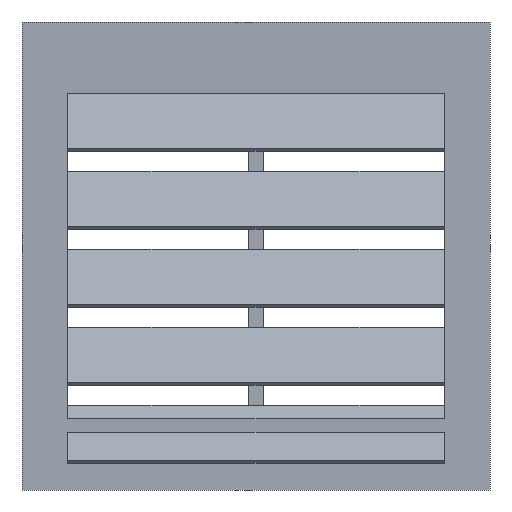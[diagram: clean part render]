
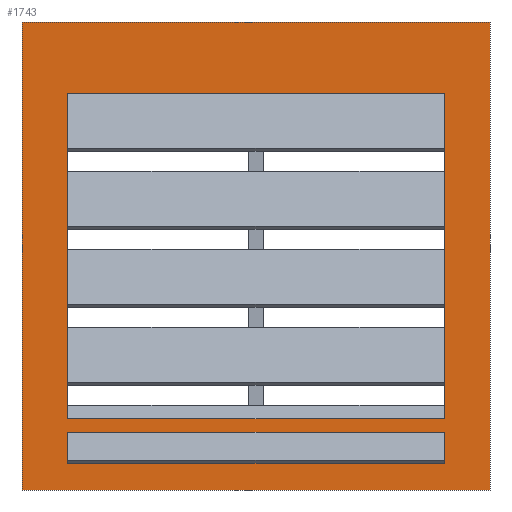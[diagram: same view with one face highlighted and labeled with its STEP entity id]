
A CAD part, front view. The second image highlights one B-rep face of the part: STEP entity #1743.
In plain terms, the highlighted planar face has unit normal (0, -1, 0).
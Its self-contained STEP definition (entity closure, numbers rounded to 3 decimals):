
#25=FACE_BOUND('',#223,.T.);
#26=FACE_BOUND('',#224,.T.);
#131=FACE_OUTER_BOUND('',#222,.T.);
#222=EDGE_LOOP('',(#1550,#1551,#1552,#1553));
#223=EDGE_LOOP('',(#1554,#1555,#1556,#1557));
#224=EDGE_LOOP('',(#1558,#1559,#1560,#1561,#1562,#1563,#1564,#1565,#1566,
#1567,#1568,#1569,#1570,#1571,#1572,#1573,#1574,#1575,#1576,#1577));
#244=LINE('',#2329,#463);
#248=LINE('',#2337,#467);
#251=LINE('',#2343,#470);
#263=LINE('',#2370,#482);
#284=LINE('',#2415,#503);
#287=LINE('',#2421,#506);
#310=LINE('',#2466,#529);
#313=LINE('',#2472,#532);
#336=LINE('',#2517,#555);
#339=LINE('',#2523,#558);
#365=LINE('',#2579,#584);
#369=LINE('',#2586,#588);
#370=LINE('',#2587,#589);
#371=LINE('',#2588,#590);
#372=LINE('',#2590,#591);
#398=LINE('',#2637,#617);
#399=LINE('',#2638,#618);
#400=LINE('',#2639,#619);
#401=LINE('',#2640,#620);
#409=LINE('',#2657,#628);
#427=LINE('',#2707,#646);
#437=LINE('',#2722,#656);
#438=LINE('',#2730,#657);
#443=LINE('',#2744,#662);
#452=LINE('',#2789,#671);
#453=LINE('',#2791,#672);
#454=LINE('',#2793,#673);
#455=LINE('',#2794,#674);
#463=VECTOR('',#1880,10.);
#467=VECTOR('',#1886,10.);
#470=VECTOR('',#1891,10.);
#482=VECTOR('',#1911,10.);
#503=VECTOR('',#1946,10.);
#506=VECTOR('',#1951,10.);
#529=VECTOR('',#1986,10.);
#532=VECTOR('',#1991,10.);
#555=VECTOR('',#2026,10.);
#558=VECTOR('',#2031,10.);
#584=VECTOR('',#2079,10.);
#588=VECTOR('',#2087,10.);
#589=VECTOR('',#2088,10.);
#590=VECTOR('',#2089,10.);
#591=VECTOR('',#2090,10.);
#617=VECTOR('',#2128,10.);
#618=VECTOR('',#2129,10.);
#619=VECTOR('',#2130,10.);
#620=VECTOR('',#2131,10.);
#628=VECTOR('',#2147,10.);
#646=VECTOR('',#2193,10.);
#656=VECTOR('',#2209,10.);
#657=VECTOR('',#2220,10.);
#662=VECTOR('',#2239,10.);
#671=VECTOR('',#2300,10.);
#672=VECTOR('',#2301,10.);
#673=VECTOR('',#2302,10.);
#674=VECTOR('',#2303,10.);
#683=VERTEX_POINT('',#2327);
#684=VERTEX_POINT('',#2328);
#687=VERTEX_POINT('',#2336);
#689=VERTEX_POINT('',#2342);
#710=VERTEX_POINT('',#2396);
#713=VERTEX_POINT('',#2402);
#717=VERTEX_POINT('',#2414);
#719=VERTEX_POINT('',#2420);
#728=VERTEX_POINT('',#2447);
#731=VERTEX_POINT('',#2453);
#735=VERTEX_POINT('',#2465);
#737=VERTEX_POINT('',#2471);
#746=VERTEX_POINT('',#2498);
#749=VERTEX_POINT('',#2504);
#753=VERTEX_POINT('',#2516);
#755=VERTEX_POINT('',#2522);
#773=VERTEX_POINT('',#2576);
#774=VERTEX_POINT('',#2578);
#776=VERTEX_POINT('',#2589);
#791=VERTEX_POINT('',#2635);
#796=VERTEX_POINT('',#2656);
#814=VERTEX_POINT('',#2706);
#816=VERTEX_POINT('',#2720);
#818=VERTEX_POINT('',#2729);
#829=VERTEX_POINT('',#2787);
#830=VERTEX_POINT('',#2788);
#831=VERTEX_POINT('',#2790);
#832=VERTEX_POINT('',#2792);
#837=EDGE_CURVE('',#683,#684,#244,.T.);
#841=EDGE_CURVE('',#687,#683,#248,.T.);
#844=EDGE_CURVE('',#684,#689,#251,.T.);
#858=EDGE_CURVE('',#689,#687,#263,.T.);
#880=EDGE_CURVE('',#713,#717,#284,.T.);
#883=EDGE_CURVE('',#719,#710,#287,.T.);
#906=EDGE_CURVE('',#731,#735,#310,.T.);
#909=EDGE_CURVE('',#737,#728,#313,.T.);
#932=EDGE_CURVE('',#749,#753,#336,.T.);
#935=EDGE_CURVE('',#755,#746,#339,.T.);
#965=EDGE_CURVE('',#774,#773,#365,.T.);
#969=EDGE_CURVE('',#710,#774,#369,.T.);
#970=EDGE_CURVE('',#728,#719,#370,.T.);
#971=EDGE_CURVE('',#746,#737,#371,.T.);
#972=EDGE_CURVE('',#776,#755,#372,.T.);
#998=EDGE_CURVE('',#753,#791,#398,.T.);
#999=EDGE_CURVE('',#735,#749,#399,.T.);
#1000=EDGE_CURVE('',#717,#731,#400,.T.);
#1001=EDGE_CURVE('',#773,#713,#401,.T.);
#1009=EDGE_CURVE('',#796,#776,#409,.T.);
#1035=EDGE_CURVE('',#791,#814,#427,.T.);
#1045=EDGE_CURVE('',#814,#816,#437,.T.);
#1049=EDGE_CURVE('',#818,#796,#438,.T.);
#1057=EDGE_CURVE('',#816,#818,#443,.T.);
#1076=EDGE_CURVE('',#829,#830,#452,.T.);
#1077=EDGE_CURVE('',#830,#831,#453,.T.);
#1078=EDGE_CURVE('',#831,#832,#454,.T.);
#1079=EDGE_CURVE('',#832,#829,#455,.T.);
#1550=ORIENTED_EDGE('',*,*,#1076,.T.);
#1551=ORIENTED_EDGE('',*,*,#1077,.T.);
#1552=ORIENTED_EDGE('',*,*,#1078,.T.);
#1553=ORIENTED_EDGE('',*,*,#1079,.T.);
#1554=ORIENTED_EDGE('',*,*,#858,.T.);
#1555=ORIENTED_EDGE('',*,*,#841,.T.);
#1556=ORIENTED_EDGE('',*,*,#837,.T.);
#1557=ORIENTED_EDGE('',*,*,#844,.T.);
#1558=ORIENTED_EDGE('',*,*,#1049,.T.);
#1559=ORIENTED_EDGE('',*,*,#1009,.T.);
#1560=ORIENTED_EDGE('',*,*,#972,.T.);
#1561=ORIENTED_EDGE('',*,*,#935,.T.);
#1562=ORIENTED_EDGE('',*,*,#971,.T.);
#1563=ORIENTED_EDGE('',*,*,#909,.T.);
#1564=ORIENTED_EDGE('',*,*,#970,.T.);
#1565=ORIENTED_EDGE('',*,*,#883,.T.);
#1566=ORIENTED_EDGE('',*,*,#969,.T.);
#1567=ORIENTED_EDGE('',*,*,#965,.T.);
#1568=ORIENTED_EDGE('',*,*,#1001,.T.);
#1569=ORIENTED_EDGE('',*,*,#880,.T.);
#1570=ORIENTED_EDGE('',*,*,#1000,.T.);
#1571=ORIENTED_EDGE('',*,*,#906,.T.);
#1572=ORIENTED_EDGE('',*,*,#999,.T.);
#1573=ORIENTED_EDGE('',*,*,#932,.T.);
#1574=ORIENTED_EDGE('',*,*,#998,.T.);
#1575=ORIENTED_EDGE('',*,*,#1035,.T.);
#1576=ORIENTED_EDGE('',*,*,#1045,.T.);
#1577=ORIENTED_EDGE('',*,*,#1057,.T.);
#1662=PLANE('',#1864);
#1743=ADVANCED_FACE('',(#131,#25,#26),#1662,.T.);
#1864=AXIS2_PLACEMENT_3D('',#2786,#2298,#2299);
#1880=DIRECTION('',(0.,0.,-1.));
#1886=DIRECTION('',(1.,0.,0.));
#1891=DIRECTION('',(-1.,0.,0.));
#1911=DIRECTION('',(0.,0.,1.));
#1946=DIRECTION('',(0.,0.,1.));
#1951=DIRECTION('',(0.,0.,-1.));
#1986=DIRECTION('',(0.,0.,1.));
#1991=DIRECTION('',(0.,0.,-1.));
#2026=DIRECTION('',(0.,0.,1.));
#2031=DIRECTION('',(0.,0.,-1.));
#2079=DIRECTION('',(-1.,0.,0.));
#2087=DIRECTION('',(0.,0.,-1.));
#2088=DIRECTION('',(0.,0.,-1.));
#2089=DIRECTION('',(0.,0.,-1.));
#2090=DIRECTION('',(0.,0.,-1.));
#2128=DIRECTION('',(0.,0.,1.));
#2129=DIRECTION('',(0.,0.,1.));
#2130=DIRECTION('',(0.,0.,1.));
#2131=DIRECTION('',(0.,0.,1.));
#2147=DIRECTION('',(0.,0.,-1.));
#2193=DIRECTION('',(0.,0.,1.));
#2209=DIRECTION('',(0.,0.,1.));
#2220=DIRECTION('',(0.,0.,-1.));
#2239=DIRECTION('',(1.,0.,0.));
#2298=DIRECTION('center_axis',(0.,-1.,0.));
#2299=DIRECTION('ref_axis',(0.,0.,-1.));
#2300=DIRECTION('',(1.,0.,0.));
#2301=DIRECTION('',(0.,0.,1.));
#2302=DIRECTION('',(-1.,0.,0.));
#2303=DIRECTION('',(0.,0.,-1.));
#2327=CARTESIAN_POINT('',(96.5,-14.,-90.5));
#2328=CARTESIAN_POINT('',(96.5,-14.,-93.328));
#2329=CARTESIAN_POINT('',(96.5,-14.,-38.25));
#2336=CARTESIAN_POINT('',(-96.5,-14.,-90.5));
#2337=CARTESIAN_POINT('',(0.,-14.,-90.5));
#2342=CARTESIAN_POINT('',(-96.5,-14.,-93.328));
#2343=CARTESIAN_POINT('',(0.,-14.,-93.328));
#2370=CARTESIAN_POINT('',(-96.5,-14.,-52.392));
#2396=CARTESIAN_POINT('',(96.5,-14.,-53.328));
#2402=CARTESIAN_POINT('',(-96.5,-14.,-53.328));
#2414=CARTESIAN_POINT('',(-96.5,-14.,-50.5));
#2415=CARTESIAN_POINT('',(-96.5,-14.,-41.75));
#2420=CARTESIAN_POINT('',(96.5,-14.,-50.5));
#2421=CARTESIAN_POINT('',(96.5,-14.,41.75));
#2447=CARTESIAN_POINT('',(96.5,-14.,-13.328));
#2453=CARTESIAN_POINT('',(-96.5,-14.,-13.328));
#2465=CARTESIAN_POINT('',(-96.5,-14.,-10.5));
#2466=CARTESIAN_POINT('',(-96.5,-14.,-41.75));
#2471=CARTESIAN_POINT('',(96.5,-14.,-10.5));
#2472=CARTESIAN_POINT('',(96.5,-14.,41.75));
#2498=CARTESIAN_POINT('',(96.5,-14.,26.672));
#2504=CARTESIAN_POINT('',(-96.5,-14.,26.672));
#2516=CARTESIAN_POINT('',(-96.5,-14.,29.5));
#2517=CARTESIAN_POINT('',(-96.5,-14.,-41.75));
#2522=CARTESIAN_POINT('',(96.5,-14.,29.5));
#2523=CARTESIAN_POINT('',(96.5,-14.,41.75));
#2576=CARTESIAN_POINT('',(-96.5,-14.,-83.5));
#2578=CARTESIAN_POINT('',(96.5,-14.,-83.5));
#2579=CARTESIAN_POINT('',(48.25,-14.,-83.5));
#2586=CARTESIAN_POINT('',(96.5,-14.,41.75));
#2587=CARTESIAN_POINT('',(96.5,-14.,41.75));
#2588=CARTESIAN_POINT('',(96.5,-14.,41.75));
#2589=CARTESIAN_POINT('',(96.5,-14.,66.672));
#2590=CARTESIAN_POINT('',(96.5,-14.,41.75));
#2635=CARTESIAN_POINT('',(-96.5,-14.,66.672));
#2637=CARTESIAN_POINT('',(-96.5,-14.,-41.75));
#2638=CARTESIAN_POINT('',(-96.5,-14.,-41.75));
#2639=CARTESIAN_POINT('',(-96.5,-14.,-41.75));
#2640=CARTESIAN_POINT('',(-96.5,-14.,-41.75));
#2656=CARTESIAN_POINT('',(96.5,-14.,69.5));
#2657=CARTESIAN_POINT('',(96.5,-14.,41.75));
#2706=CARTESIAN_POINT('',(-96.5,-14.,69.5));
#2707=CARTESIAN_POINT('',(-96.5,-14.,-41.75));
#2720=CARTESIAN_POINT('',(-96.5,-14.,83.5));
#2722=CARTESIAN_POINT('',(-96.5,-14.,-41.75));
#2729=CARTESIAN_POINT('',(96.5,-14.,83.5));
#2730=CARTESIAN_POINT('',(96.5,-14.,41.75));
#2744=CARTESIAN_POINT('',(-48.25,-14.,83.5));
#2786=CARTESIAN_POINT('Origin',(0.,-14.,0.));
#2787=CARTESIAN_POINT('',(-120.,-14.,-120.));
#2788=CARTESIAN_POINT('',(120.,-14.,-120.));
#2789=CARTESIAN_POINT('',(-120.,-14.,-120.));
#2790=CARTESIAN_POINT('',(120.,-14.,120.));
#2791=CARTESIAN_POINT('',(120.,-14.,-120.));
#2792=CARTESIAN_POINT('',(-120.,-14.,120.));
#2793=CARTESIAN_POINT('',(120.,-14.,120.));
#2794=CARTESIAN_POINT('',(-120.,-14.,120.));
